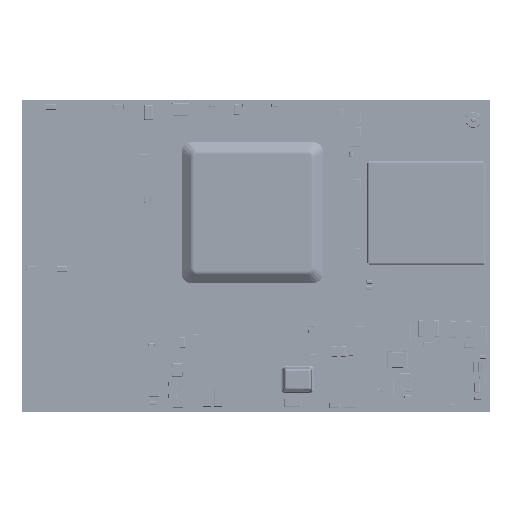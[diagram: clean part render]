
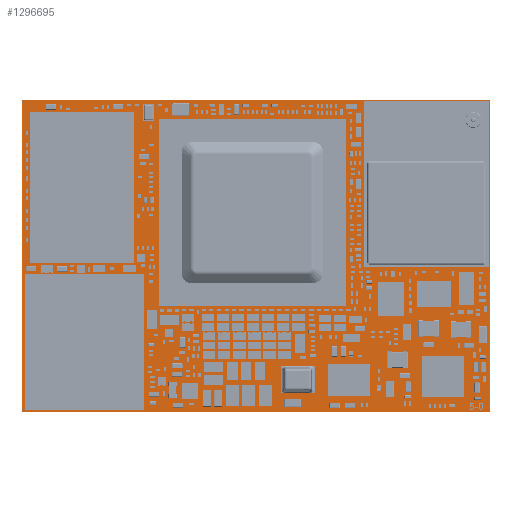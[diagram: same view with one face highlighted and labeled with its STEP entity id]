
A CAD part, top view. The second image highlights one B-rep face of the part: STEP entity #1296695.
In plain terms, the highlighted planar face has unit normal (0, 0, 1).
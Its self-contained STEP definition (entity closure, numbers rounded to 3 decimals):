
#666 = VECTOR ( 'NONE', #1235641, 1000. ) ;
#1066 = VERTEX_POINT ( 'NONE', #888272 ) ;
#6601 = CARTESIAN_POINT ( 'NONE',  ( 45., 0., 0. ) ) ;
#36199 = VECTOR ( 'NONE', #1376479, 1000. ) ;
#104711 = DIRECTION ( 'NONE',  ( 0., 1., 0. ) ) ;
#112101 = PLANE ( 'NONE',  #369895 ) ;
#128512 = VECTOR ( 'NONE', #104711, 1000. ) ;
#197837 = VERTEX_POINT ( 'NONE', #482139 ) ;
#215811 = LINE ( 'NONE', #334453, #36199 ) ;
#230438 = LINE ( 'NONE', #1188181, #1173565 ) ;
#237166 = EDGE_LOOP ( 'NONE', ( #557721, #754790, #1206701, #590053 ) ) ;
#334453 = CARTESIAN_POINT ( 'NONE',  ( 0., 0., 0. ) ) ;
#336134 = FACE_OUTER_BOUND ( 'NONE', #237166, .T. ) ;
#342199 = DIRECTION ( 'NONE',  ( 0., -1., 0. ) ) ;
#363260 = CARTESIAN_POINT ( 'NONE',  ( 0., 30., 0. ) ) ;
#369895 = AXIS2_PLACEMENT_3D ( 'NONE', #1300997, #1076819, #447865 ) ;
#447865 = DIRECTION ( 'NONE',  ( 1., 0., 0. ) ) ;
#482139 = CARTESIAN_POINT ( 'NONE',  ( 45., 30., 0. ) ) ;
#557721 = ORIENTED_EDGE ( 'NONE', *, *, #1332986, .T. ) ;
#590053 = ORIENTED_EDGE ( 'NONE', *, *, #1206776, .T. ) ;
#643025 = LINE ( 'NONE', #6601, #128512 ) ;
#662340 = VERTEX_POINT ( 'NONE', #363260 ) ;
#690373 = CARTESIAN_POINT ( 'NONE',  ( 0., 0., 0. ) ) ;
#710815 = CARTESIAN_POINT ( 'NONE',  ( 45., 30., 0. ) ) ;
#754790 = ORIENTED_EDGE ( 'NONE', *, *, #1129303, .T. ) ;
#888272 = CARTESIAN_POINT ( 'NONE',  ( 45., 0., 0. ) ) ;
#927478 = LINE ( 'NONE', #710815, #666 ) ;
#1076819 = DIRECTION ( 'NONE',  ( 0., 0., 1. ) ) ;
#1129303 = EDGE_CURVE ( 'NONE', #1066, #197837, #643025, .T. ) ;
#1173565 = VECTOR ( 'NONE', #342199, 1000. ) ;
#1177894 = EDGE_CURVE ( 'NONE', #197837, #662340, #927478, .T. ) ;
#1188181 = CARTESIAN_POINT ( 'NONE',  ( 0., 30., 0. ) ) ;
#1206701 = ORIENTED_EDGE ( 'NONE', *, *, #1177894, .T. ) ;
#1206776 = EDGE_CURVE ( 'NONE', #662340, #1225764, #230438, .T. ) ;
#1225764 = VERTEX_POINT ( 'NONE', #690373 ) ;
#1235641 = DIRECTION ( 'NONE',  ( -1., 0., 0. ) ) ;
#1296695 = ADVANCED_FACE ( 'NONE', ( #336134 ), #112101, .T. ) ;
#1300997 = CARTESIAN_POINT ( 'NONE',  ( 22.5, 15., 0. ) ) ;
#1332986 = EDGE_CURVE ( 'NONE', #1225764, #1066, #215811, .T. ) ;
#1376479 = DIRECTION ( 'NONE',  ( 1., 0., 0. ) ) ;
